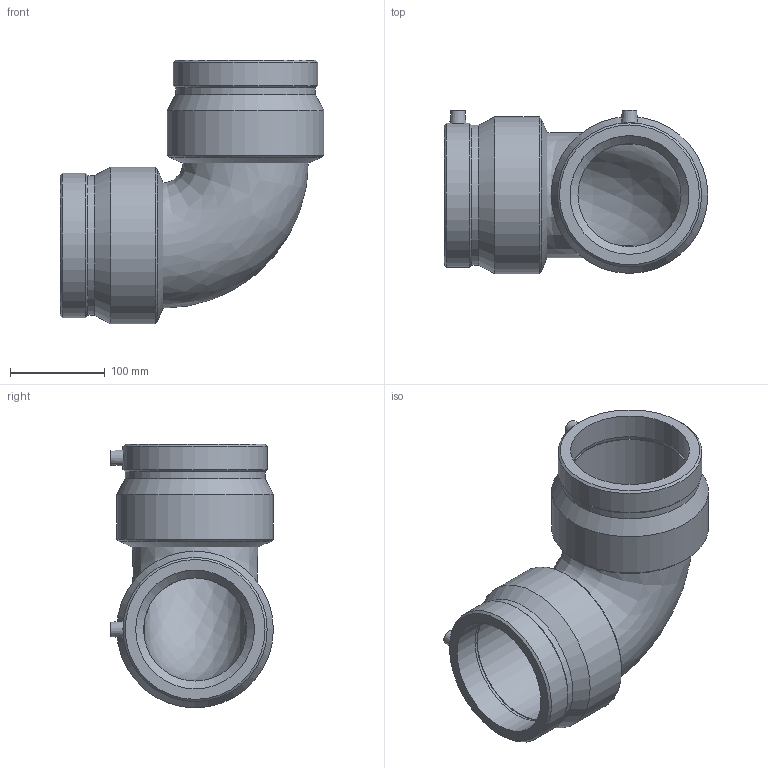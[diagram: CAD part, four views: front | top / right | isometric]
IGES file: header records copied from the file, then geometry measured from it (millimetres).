
Global section: file name: 490504125.ipt; native system: Autodesk Inventor 2015; preprocessor: unknown; author: KIM; date: 20171106.093639; units: millimetre
Bounding box: 277.6 x 171.5 x 277.6 mm (x, y, z)
Volume: 2215861.2 mm3; surface area: 323668.7 mm2
Topology: 1 solids, 1 shells, 42 faces, 98 edges, 64 vertices
Faces by surface type: revolution 12, cone 12, plane 10, cylinder 8
Full cylindrical faces by diameter (mm): 4 x2, 147.246 x2, 151.8 x2, 165 x2
